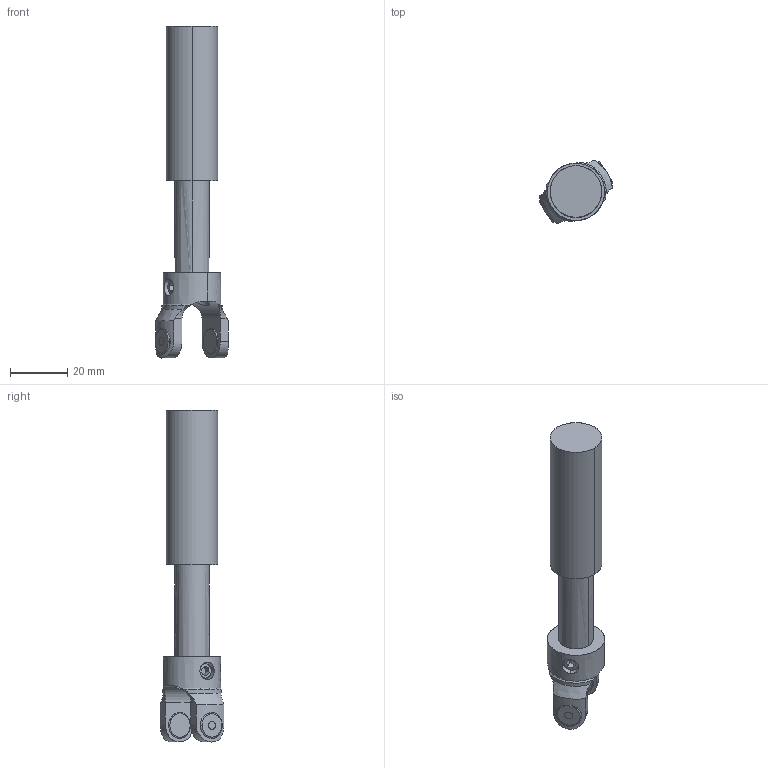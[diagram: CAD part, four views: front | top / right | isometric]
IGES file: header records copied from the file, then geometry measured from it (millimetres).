
Start section: SolidWorks IGES file using analytic representation for surfaces
Global section: file name: C:\Users\SELUHAA\Desktop\Work items\545792\IGES\IRB360_X-1130-STD-4D_rev03_IGES_J\IRB360_X-1130-STD-4D_rev03_U_CAD.IGS; native system: SolidWorks 2022; preprocessor: SolidWorks 2022; author: SELUHAA; date: 231204.090016; units: millimetre
Bounding box: 25.74 x 22.18 x 115.8 mm (x, y, z)
Surface area: 8757.2 mm2 (no closed solid volume)
Topology: 0 solids, 0 shells, 97 faces, 1673 edges, 1670 vertices
Faces by surface type: revolution 54, bspline 43
